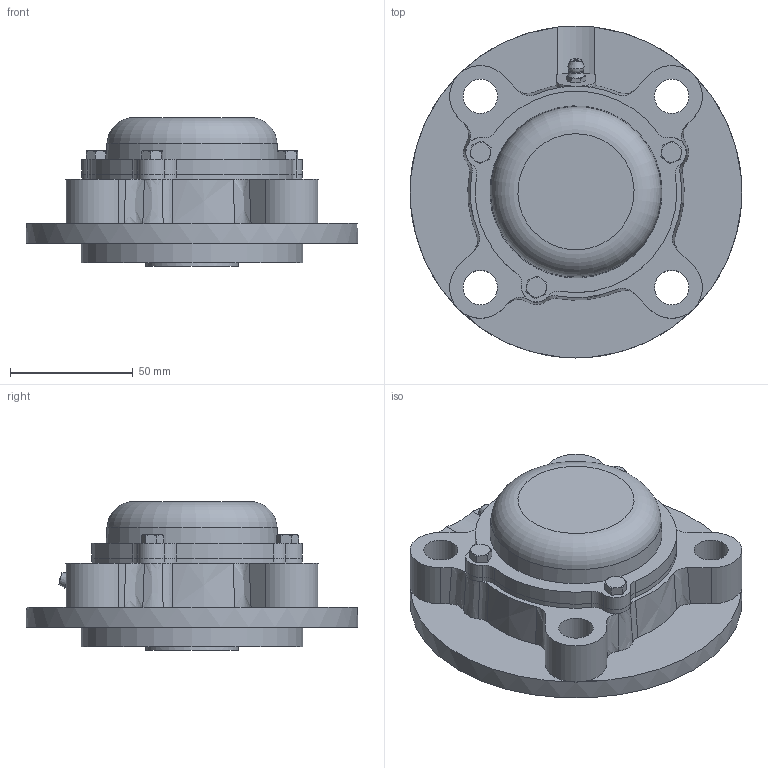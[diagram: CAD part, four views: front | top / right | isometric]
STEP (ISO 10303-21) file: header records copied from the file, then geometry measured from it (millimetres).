
FILE_DESCRIPTION((''),'2;1');
FILE_NAME('\\Ts-tgl068\j-cad-d-base\00.3DCADデータ作成フォルダ\02.フランジ形\CUKFC200\CUKFC2067CE+H.stp','2014-05-22T08:57:36',('btec_1106_2'),(''),'Autodesk Inventor 2012','Autodesk Inventor 2012','');
FILE_SCHEMA(('AUTOMOTIVE_DESIGN { 1 0 10303 214 1 1 1 1 }'));
Length unit declared in the file: millimetre
Products named in the file (7): CUKFC200CE+H; CFC207; UK207; GU1; 207CE; M5X0
Assembly tree (8 placements, depth 3):
  CUKFC200CE+H
    CFC207
    UK207
    GU1
    207CE
      207CE
      M5X0  x3
Bounding box: 135 x 135 x 60.5 mm (x, y, z)
Volume: 289724.2 mm3; surface area: 85924 mm2
Topology: 7 solids, 7 shells, 294 faces, 749 edges, 482 vertices
Faces by surface type: plane 114, cylinder 82, cone 76, bspline 14, sphere 4, torus 4
Full cylindrical faces by diameter (mm): 4.134 x3, 5 x3, 5.359 x1, 6 x3, 6.35 x1, 14 x4, 30 x1, 48 x2, 70 x1, 74 x1, 90 x1, 135 x1
Entity records: 8356 total; most frequent: CARTESIAN_POINT 2273, ORIENTED_EDGE 1246, DIRECTION 1205, EDGE_CURVE 623, AXIS2_PLACEMENT_3D 506, VERTEX_POINT 420, EDGE_LOOP 330, FACE_OUTER_BOUND 260
